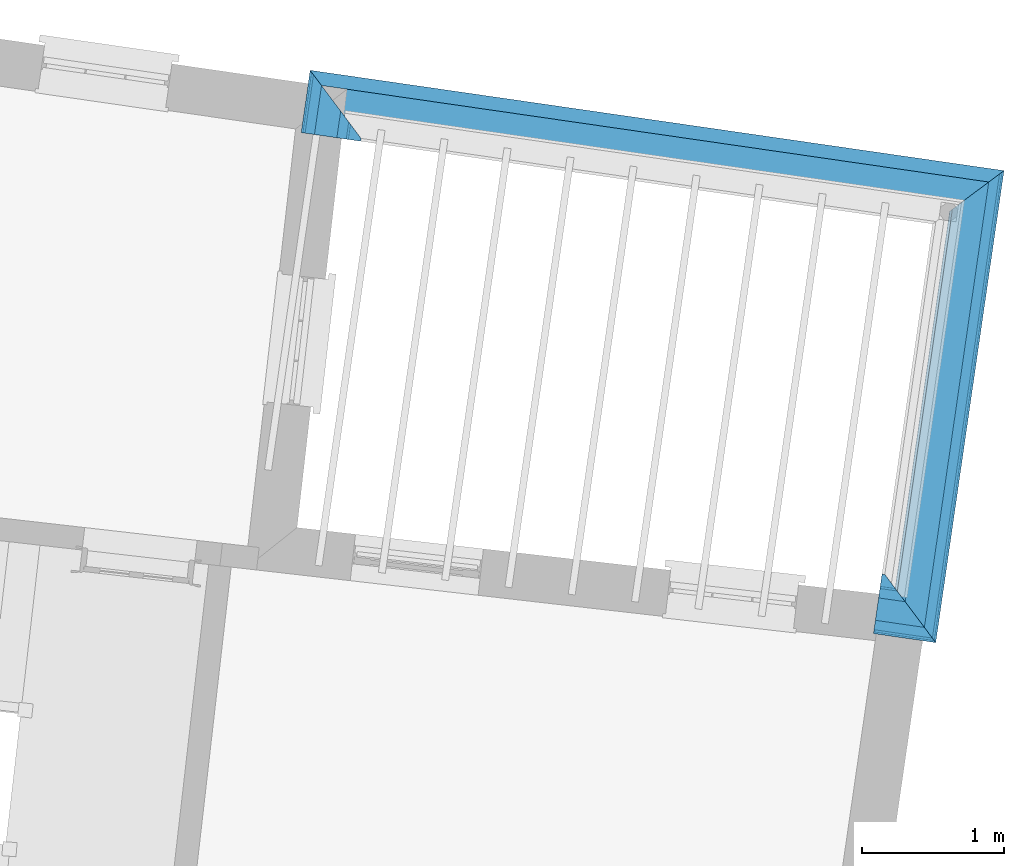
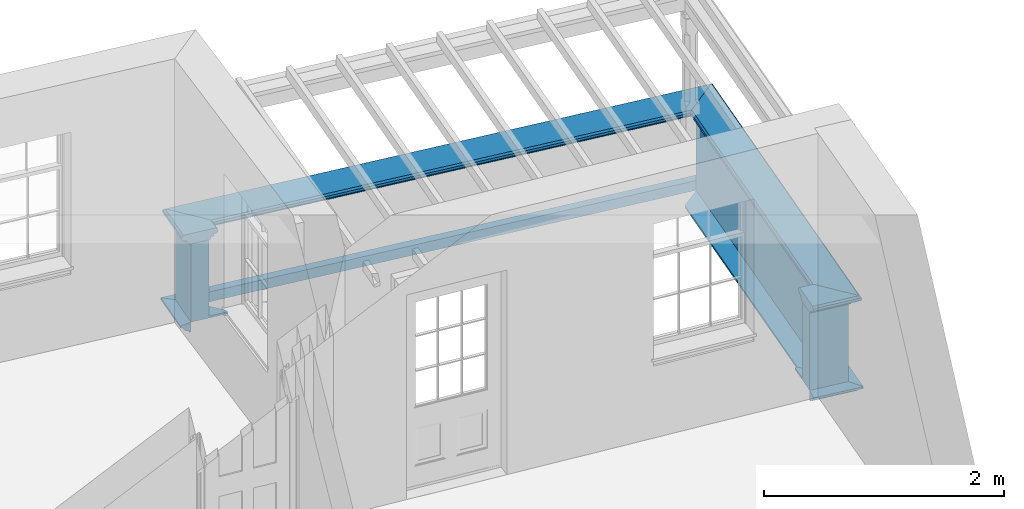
# One storey, part 4 of 5: 11 walls.
"""IFC4 building model written with IfcOpenShell, lengths in metres."""

from ifc_helpers import new_model, si_unit, frame, origin_with_axes, place, context, subcontext, project, spatial, polyline, outline, extrude, clip, halfspace, material_profile, profile_set, profile_usage, type_object, element, save


model = new_model("IFC4")

# Units and contexts
model_context = context("Model", 3, world=origin_with_axes())
body_context = subcontext(model_context, "Body", "Model", "MODEL_VIEW")
ifc_project = project(units=[si_unit("PLANEANGLEUNIT", "RADIAN"), si_unit("MASSUNIT", "GRAM", prefix="KILO"), si_unit("FORCEUNIT", "NEWTON", prefix="KILO"), si_unit("LENGTHUNIT", "METRE"), si_unit("AREAUNIT", "SQUARE_METRE"), si_unit("VOLUMEUNIT", "CUBIC_METRE")], contexts=[model_context, model_context])

# Sites, building, storey
site_1_placement = place(None, origin_with_axes())
site_1 = spatial("IfcSite", under=ifc_project, at=site_1_placement, Name="Tamar")
site_2_placement = place(site_1_placement, origin_with_axes())
site_2 = spatial("IfcSite", under=site_1, at=site_2_placement, Name="Site plot-31", CompositionType="ELEMENT")
building_placement = place(None, origin_with_axes())
building = spatial("IfcBuilding", under=site_2, at=building_placement, Name="Building plot-31", CompositionType="ELEMENT")
storey_placement = place(None, frame((0.0, 0.0, 28.65), z_axis=(0.0, 0.0, 1.0), x_axis=(1.0, 0.0, 0.0)))
storey = spatial("IfcBuildingStorey", under=building, at=storey_placement, Name="plot-31 1", CompositionType="ELEMENT", Elevation=28.65)

# Walls
ifc_material_profile_1 = material_profile(None, outline(polyline([(0.25, 0.0), (0.25, 0.795), (0.09, 0.795), (0.09, 0.02), (-0.08, 0.02), (-0.08, 0.0), (0.25, 0.0)])))
ifc_profile_set_1 = profile_set([ifc_material_profile_1])
ifc_profile_usage_1 = profile_usage(ifc_profile_set_1)
wall_type_1 = type_object("IfcWallType", Name="parapet_0", PredefinedType="PARAPET", material=ifc_profile_set_1)
wall_1_placement = place(storey_placement, frame((301.455720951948, 260.704924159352, 0.0), z_axis=(-0.98970546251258, 0.143119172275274, 0.0), x_axis=(-0.143119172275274, -0.98970546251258, 0.0)))
element("IfcWall", 1, at=wall_1_placement, inside=storey, type_object=wall_type_1, material=ifc_profile_usage_1, Name="parapet_0", context=body_context, shape_type="Clipping", body=[
    clip(clip(extrude(outline(polyline([(0.25, 0.0), (0.25, 0.795), (0.09, 0.795), (0.09, 0.02), (-0.08, 0.02), (-0.08, 0.0), (0.25, 0.0)])), origin_with_axes(), (0.0, 0.0, 1.0), 2.10000000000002), halfspace(frame((0.0, 0.0, 1.10000000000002), z_axis=(-2.38200050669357e-14, 0.0, -1.0), x_axis=(0.0, 1.0, 0.0)), True)), halfspace(frame((0.0, 0.0, 1.0), z_axis=(-0.707106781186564, 0.0, -0.707106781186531), x_axis=(0.0, 1.0, 0.0)), False)),
])
ifc_profile_usage_2 = profile_usage(ifc_profile_set_1)
wall_2_placement = place(storey_placement, frame((300.992736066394, 264.490450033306, 0.0), z_axis=(-0.143119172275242, -0.989705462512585, 0.0), x_axis=(0.989705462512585, -0.143119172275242, 0.0)))
element("IfcWall", 2, at=wall_2_placement, inside=storey, type_object=wall_type_1, material=ifc_profile_usage_2, Name="parapet_0", context=body_context, shape_type="Clipping", body=[
    clip(clip(extrude(outline(polyline([(0.25, 0.0), (0.25, 0.795), (0.09, 0.795), (0.09, 0.02), (-0.08, 0.02), (-0.08, 0.0), (0.25, 0.0)])), origin_with_axes(), (0.0, 0.0, 1.0), 4.68029362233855), halfspace(frame((0.0, 0.0, 3.68029362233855), z_axis=(0.707106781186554, 0.0, -0.707106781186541), x_axis=(0.0, 1.0, 0.0)), True)), halfspace(frame((0.0, 0.0, 1.0), z_axis=(-0.70710678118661, 0.0, -0.707106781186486), x_axis=(0.0, 1.0, 0.0)), False)),
])
ifc_profile_usage_3 = profile_usage(ifc_profile_set_1)
wall_3_placement = place(storey_placement, frame((296.471585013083, 263.022400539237, 0.0), z_axis=(0.143119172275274, 0.98970546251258, 0.0), x_axis=(-0.98970546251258, 0.143119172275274, 0.0)))
element("IfcWall", 3, at=wall_3_placement, inside=storey, type_object=wall_type_1, material=ifc_profile_usage_3, Name="parapet_0", context=body_context, shape_type="Clipping", body=[
    clip(clip(extrude(outline(polyline([(0.25, 0.0), (0.25, 0.795), (0.09, 0.795), (0.09, 0.02), (-0.08, 0.02), (-0.08, 0.0), (0.25, 0.0)])), origin_with_axes(), (0.0, 0.0, 1.0), 2.10000000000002), halfspace(frame((0.0, 0.0, 1.10000000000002), z_axis=(0.707106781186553, 0.0, -0.707106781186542), x_axis=(0.0, 1.0, 0.0)), True)), halfspace(frame((0.0, 0.0, 1.0), z_axis=(-2.31538712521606e-14, 0.0, -1.0), x_axis=(0.0, 1.0, 0.0)), False)),
])
ifc_material_profile_2 = material_profile(None, outline(polyline([(0.265, 0.795), (0.268, 0.807), (0.274, 0.816), (0.283, 0.822), (0.295, 0.825), (0.295, 0.84), (0.305, 0.84), (0.317, 0.842), (0.326, 0.849), (0.333, 0.858), (0.335, 0.87), (0.333, 0.882), (0.326, 0.891), (0.317, 0.898), (0.305, 0.9), (0.035, 0.9), (0.023, 0.898), (0.014, 0.891), (0.007, 0.882), (0.005, 0.87), (0.007, 0.858), (0.014, 0.849), (0.023, 0.842), (0.035, 0.84), (0.045, 0.84), (0.045, 0.825), (0.057, 0.822), (0.066, 0.816), (0.072, 0.807), (0.075, 0.795), (0.265, 0.795)])))
ifc_profile_set_2 = profile_set([ifc_material_profile_2])
ifc_profile_usage_4 = profile_usage(ifc_profile_set_2)
wall_type_2 = type_object("IfcWallType", Name="parapet_1", PredefinedType="PARAPET", material=ifc_profile_set_2)
wall_4_placement = place(storey_placement, frame((301.455720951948, 260.704924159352, 0.0), z_axis=(-0.98970546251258, 0.143119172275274, 0.0), x_axis=(-0.143119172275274, -0.98970546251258, 0.0)))
element("IfcWall", 4, at=wall_4_placement, inside=storey, type_object=wall_type_2, material=ifc_profile_usage_4, Name="parapet_1", context=body_context, shape_type="Clipping", body=[
    clip(clip(extrude(outline(polyline([(0.265, 0.795), (0.268, 0.807), (0.274, 0.816), (0.283, 0.822), (0.295, 0.825), (0.295, 0.84), (0.305, 0.84), (0.317, 0.842), (0.326, 0.849), (0.333, 0.858), (0.335, 0.87), (0.333, 0.882), (0.326, 0.891), (0.317, 0.898), (0.305, 0.9), (0.035, 0.9), (0.023, 0.898), (0.014, 0.891), (0.007, 0.882), (0.005, 0.87), (0.007, 0.858), (0.014, 0.849), (0.023, 0.842), (0.035, 0.84), (0.045, 0.84), (0.045, 0.825), (0.057, 0.822), (0.066, 0.816), (0.072, 0.807), (0.075, 0.795), (0.265, 0.795)])), origin_with_axes(), (0.0, 0.0, 1.0), 2.10000000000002), halfspace(frame((0.0, 0.0, 1.10000000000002), z_axis=(-2.38200050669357e-14, 0.0, -1.0), x_axis=(0.0, 1.0, 0.0)), True)), halfspace(frame((0.0, 0.0, 1.0), z_axis=(-0.707106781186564, 0.0, -0.707106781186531), x_axis=(0.0, 1.0, 0.0)), False)),
])
ifc_profile_usage_5 = profile_usage(ifc_profile_set_2)
wall_5_placement = place(storey_placement, frame((300.992736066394, 264.490450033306, 0.0), z_axis=(-0.143119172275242, -0.989705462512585, 0.0), x_axis=(0.989705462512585, -0.143119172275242, 0.0)))
element("IfcWall", 5, at=wall_5_placement, inside=storey, type_object=wall_type_2, material=ifc_profile_usage_5, Name="parapet_1", context=body_context, shape_type="Clipping", body=[
    clip(clip(extrude(outline(polyline([(0.265, 0.795), (0.268, 0.807), (0.274, 0.816), (0.283, 0.822), (0.295, 0.825), (0.295, 0.84), (0.305, 0.84), (0.317, 0.842), (0.326, 0.849), (0.333, 0.858), (0.335, 0.87), (0.333, 0.882), (0.326, 0.891), (0.317, 0.898), (0.305, 0.9), (0.035, 0.9), (0.023, 0.898), (0.014, 0.891), (0.007, 0.882), (0.005, 0.87), (0.007, 0.858), (0.014, 0.849), (0.023, 0.842), (0.035, 0.84), (0.045, 0.84), (0.045, 0.825), (0.057, 0.822), (0.066, 0.816), (0.072, 0.807), (0.075, 0.795), (0.265, 0.795)])), origin_with_axes(), (0.0, 0.0, 1.0), 4.68029362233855), halfspace(frame((0.0, 0.0, 3.68029362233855), z_axis=(0.707106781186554, 0.0, -0.707106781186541), x_axis=(0.0, 1.0, 0.0)), True)), halfspace(frame((0.0, 0.0, 1.0), z_axis=(-0.70710678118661, 0.0, -0.707106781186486), x_axis=(0.0, 1.0, 0.0)), False)),
])
ifc_profile_usage_6 = profile_usage(ifc_profile_set_2)
wall_6_placement = place(storey_placement, frame((295.639310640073, 264.254195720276, 0.0), z_axis=(0.989705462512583, -0.143119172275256, 0.0), x_axis=(0.143119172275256, 0.989705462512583, 0.0)))
element("IfcWall", 6, at=wall_6_placement, inside=storey, type_object=wall_type_2, material=ifc_profile_usage_6, Name="parapet_1", context=body_context, shape_type="Clipping", body=[
    clip(clip(extrude(outline(polyline([(0.265, 0.795), (0.268, 0.807), (0.274, 0.816), (0.283, 0.822), (0.295, 0.825), (0.295, 0.84), (0.305, 0.84), (0.317, 0.842), (0.326, 0.849), (0.333, 0.858), (0.335, 0.87), (0.333, 0.882), (0.326, 0.891), (0.317, 0.898), (0.305, 0.9), (0.035, 0.9), (0.023, 0.898), (0.014, 0.891), (0.007, 0.882), (0.005, 0.87), (0.007, 0.858), (0.014, 0.849), (0.023, 0.842), (0.035, 0.84), (0.045, 0.84), (0.045, 0.825), (0.057, 0.822), (0.066, 0.816), (0.072, 0.807), (0.075, 0.795), (0.265, 0.795)])), origin_with_axes(), (0.0, 0.0, 1.0), 6.26450186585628), halfspace(frame((0.0, 0.0, 5.26450186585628), z_axis=(0.707106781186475, 0.0, -0.70710678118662), x_axis=(0.0, 1.0, 0.0)), True)), halfspace(frame((0.0, 0.0, 1.0), z_axis=(-0.707106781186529, 0.0, -0.707106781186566), x_axis=(0.0, 1.0, 0.0)), False)),
])
ifc_profile_usage_7 = profile_usage(ifc_profile_set_2)
wall_7_placement = place(storey_placement, frame((296.471585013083, 263.022400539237, 0.0), z_axis=(0.143119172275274, 0.98970546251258, 0.0), x_axis=(-0.98970546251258, 0.143119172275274, 0.0)))
element("IfcWall", 7, at=wall_7_placement, inside=storey, type_object=wall_type_2, material=ifc_profile_usage_7, Name="parapet_1", context=body_context, shape_type="Clipping", body=[
    clip(clip(extrude(outline(polyline([(0.265, 0.795), (0.268, 0.807), (0.274, 0.816), (0.283, 0.822), (0.295, 0.825), (0.295, 0.84), (0.305, 0.84), (0.317, 0.842), (0.326, 0.849), (0.333, 0.858), (0.335, 0.87), (0.333, 0.882), (0.326, 0.891), (0.317, 0.898), (0.305, 0.9), (0.035, 0.9), (0.023, 0.898), (0.014, 0.891), (0.007, 0.882), (0.005, 0.87), (0.007, 0.858), (0.014, 0.849), (0.023, 0.842), (0.035, 0.84), (0.045, 0.84), (0.045, 0.825), (0.057, 0.822), (0.066, 0.816), (0.072, 0.807), (0.075, 0.795), (0.265, 0.795)])), origin_with_axes(), (0.0, 0.0, 1.0), 2.10000000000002), halfspace(frame((0.0, 0.0, 1.10000000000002), z_axis=(0.707106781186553, 0.0, -0.707106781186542), x_axis=(0.0, 1.0, 0.0)), True)), halfspace(frame((0.0, 0.0, 1.0), z_axis=(-2.31538712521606e-14, 0.0, -1.0), x_axis=(0.0, 1.0, 0.0)), False)),
])
ifc_material_profile_3 = material_profile(None, outline(polyline([(0.25, -0.1), (0.265, -0.1), (0.265, -0.085), (0.278, -0.084), (0.289, -0.081), (0.301, -0.074), (0.309, -0.065), (0.315, -0.055), (0.324, -0.044), (0.334, -0.038), (0.345, -0.035), (0.345, -0.015), (0.25, 0.0), (0.25, -0.1)])))
ifc_profile_set_3 = profile_set([ifc_material_profile_3])
ifc_profile_usage_8 = profile_usage(ifc_profile_set_3)
wall_type_3 = type_object("IfcWallType", Name="parapet_2", PredefinedType="PARAPET", material=ifc_profile_set_3)
wall_8_placement = place(storey_placement, frame((301.455720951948, 260.704924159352, 0.0), z_axis=(-0.98970546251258, 0.143119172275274, 0.0), x_axis=(-0.143119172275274, -0.98970546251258, 0.0)))
element("IfcWall", 8, at=wall_8_placement, inside=storey, type_object=wall_type_3, material=ifc_profile_usage_8, Name="parapet_2", context=body_context, shape_type="Clipping", body=[
    clip(clip(extrude(outline(polyline([(0.25, -0.1), (0.265, -0.1), (0.265, -0.085), (0.278, -0.084), (0.289, -0.081), (0.301, -0.074), (0.309, -0.065), (0.315, -0.055), (0.324, -0.044), (0.334, -0.038), (0.345, -0.035), (0.345, -0.015), (0.25, 0.0), (0.25, -0.1)])), origin_with_axes(), (0.0, 0.0, 1.0), 2.10000000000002), halfspace(frame((0.0, 0.0, 1.10000000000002), z_axis=(-2.38200050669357e-14, 0.0, -1.0), x_axis=(0.0, 1.0, 0.0)), True)), halfspace(frame((0.0, 0.0, 1.0), z_axis=(-0.707106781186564, 0.0, -0.707106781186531), x_axis=(0.0, 1.0, 0.0)), False)),
])
ifc_profile_usage_9 = profile_usage(ifc_profile_set_3)
wall_9_placement = place(storey_placement, frame((300.992736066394, 264.490450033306, 0.0), z_axis=(-0.143119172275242, -0.989705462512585, 0.0), x_axis=(0.989705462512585, -0.143119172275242, 0.0)))
element("IfcWall", 9, at=wall_9_placement, inside=storey, type_object=wall_type_3, material=ifc_profile_usage_9, Name="parapet_2", context=body_context, shape_type="Clipping", body=[
    clip(clip(extrude(outline(polyline([(0.25, -0.1), (0.265, -0.1), (0.265, -0.085), (0.278, -0.084), (0.289, -0.081), (0.301, -0.074), (0.309, -0.065), (0.315, -0.055), (0.324, -0.044), (0.334, -0.038), (0.345, -0.035), (0.345, -0.015), (0.25, 0.0), (0.25, -0.1)])), origin_with_axes(), (0.0, 0.0, 1.0), 4.68029362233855), halfspace(frame((0.0, 0.0, 3.68029362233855), z_axis=(0.707106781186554, 0.0, -0.707106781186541), x_axis=(0.0, 1.0, 0.0)), True)), halfspace(frame((0.0, 0.0, 1.0), z_axis=(-0.70710678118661, 0.0, -0.707106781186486), x_axis=(0.0, 1.0, 0.0)), False)),
])
ifc_profile_usage_10 = profile_usage(ifc_profile_set_3)
wall_10_placement = place(storey_placement, frame((295.639310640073, 264.254195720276, 0.0), z_axis=(0.989705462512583, -0.143119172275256, 0.0), x_axis=(0.143119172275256, 0.989705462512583, 0.0)))
element("IfcWall", 10, at=wall_10_placement, inside=storey, type_object=wall_type_3, material=ifc_profile_usage_10, Name="parapet_2", context=body_context, shape_type="Clipping", body=[
    clip(clip(extrude(outline(polyline([(0.25, -0.1), (0.265, -0.1), (0.265, -0.085), (0.278, -0.084), (0.289, -0.081), (0.301, -0.074), (0.309, -0.065), (0.315, -0.055), (0.324, -0.044), (0.334, -0.038), (0.345, -0.035), (0.345, -0.015), (0.25, 0.0), (0.25, -0.1)])), origin_with_axes(), (0.0, 0.0, 1.0), 6.26450186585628), halfspace(frame((0.0, 0.0, 5.26450186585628), z_axis=(0.707106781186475, 0.0, -0.70710678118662), x_axis=(0.0, 1.0, 0.0)), True)), halfspace(frame((0.0, 0.0, 1.0), z_axis=(-0.707106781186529, 0.0, -0.707106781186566), x_axis=(0.0, 1.0, 0.0)), False)),
])
ifc_profile_usage_11 = profile_usage(ifc_profile_set_3)
wall_11_placement = place(storey_placement, frame((296.471585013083, 263.022400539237, 0.0), z_axis=(0.143119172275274, 0.98970546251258, 0.0), x_axis=(-0.98970546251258, 0.143119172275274, 0.0)))
element("IfcWall", 11, at=wall_11_placement, inside=storey, type_object=wall_type_3, material=ifc_profile_usage_11, Name="parapet_2", context=body_context, shape_type="Clipping", body=[
    clip(clip(extrude(outline(polyline([(0.25, -0.1), (0.265, -0.1), (0.265, -0.085), (0.278, -0.084), (0.289, -0.081), (0.301, -0.074), (0.309, -0.065), (0.315, -0.055), (0.324, -0.044), (0.334, -0.038), (0.345, -0.035), (0.345, -0.015), (0.25, 0.0), (0.25, -0.1)])), origin_with_axes(), (0.0, 0.0, 1.0), 2.10000000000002), halfspace(frame((0.0, 0.0, 1.10000000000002), z_axis=(0.707106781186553, 0.0, -0.707106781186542), x_axis=(0.0, 1.0, 0.0)), True)), halfspace(frame((0.0, 0.0, 1.0), z_axis=(-2.31538712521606e-14, 0.0, -1.0), x_axis=(0.0, 1.0, 0.0)), False)),
])

save(model, "model.ifc")
